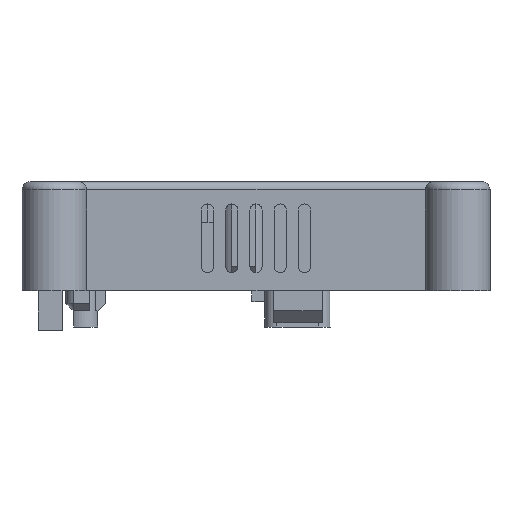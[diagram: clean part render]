
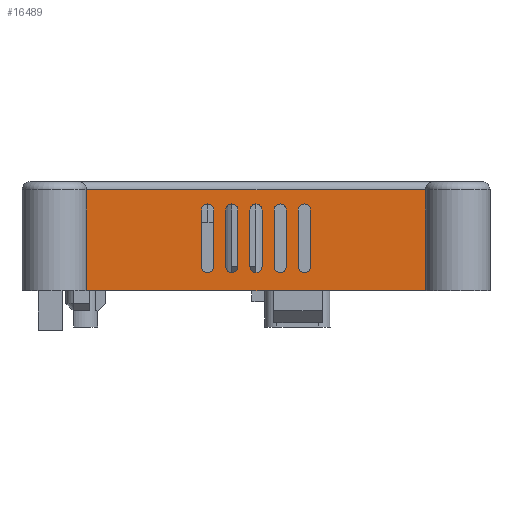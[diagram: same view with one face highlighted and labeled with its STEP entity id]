
A CAD part, left-side view. The second image highlights one B-rep face of the part: STEP entity #16489.
In plain terms, the highlighted planar face has unit normal (-1, 0, 0).
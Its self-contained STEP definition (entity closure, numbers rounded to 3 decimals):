
#788=FACE_BOUND('',#3121,.T.);
#789=FACE_BOUND('',#3122,.T.);
#790=FACE_BOUND('',#3123,.T.);
#791=FACE_BOUND('',#3124,.T.);
#792=FACE_BOUND('',#3125,.T.);
#1038=CIRCLE('',#16880,0.75);
#1040=CIRCLE('',#16884,0.75);
#1042=CIRCLE('',#16888,0.75);
#1044=CIRCLE('',#16892,0.75);
#1046=CIRCLE('',#16896,0.75);
#1048=CIRCLE('',#16900,0.75);
#1050=CIRCLE('',#16904,0.75);
#1052=CIRCLE('',#16908,0.75);
#1054=CIRCLE('',#16912,0.75);
#1056=CIRCLE('',#16916,0.75);
#2080=FACE_OUTER_BOUND('',#3120,.T.);
#3120=EDGE_LOOP('',(#15103,#15104,#15105,#15106));
#3121=EDGE_LOOP('',(#15107,#15108,#15109,#15110));
#3122=EDGE_LOOP('',(#15111,#15112,#15113,#15114));
#3123=EDGE_LOOP('',(#15115,#15116,#15117,#15118));
#3124=EDGE_LOOP('',(#15119,#15120,#15121,#15122));
#3125=EDGE_LOOP('',(#15123,#15124,#15125,#15126));
#3192=LINE('',#21169,#4870);
#3680=LINE('',#23090,#5358);
#3824=LINE('',#23545,#5502);
#3828=LINE('',#23556,#5506);
#3832=LINE('',#23569,#5510);
#3836=LINE('',#23580,#5514);
#3840=LINE('',#23593,#5518);
#3844=LINE('',#23604,#5522);
#3848=LINE('',#23617,#5526);
#3852=LINE('',#23628,#5530);
#3856=LINE('',#23641,#5534);
#3860=LINE('',#23652,#5538);
#4802=LINE('',#28313,#6480);
#4803=LINE('',#28315,#6481);
#4870=VECTOR('',#17551,10.);
#5358=VECTOR('',#18509,10.);
#5502=VECTOR('',#18925,10.);
#5506=VECTOR('',#18937,10.);
#5510=VECTOR('',#18949,10.);
#5514=VECTOR('',#18961,10.);
#5518=VECTOR('',#18973,10.);
#5522=VECTOR('',#18985,10.);
#5526=VECTOR('',#18997,10.);
#5530=VECTOR('',#19009,10.);
#5534=VECTOR('',#19021,10.);
#5538=VECTOR('',#19033,10.);
#6480=VECTOR('',#21013,10.);
#6481=VECTOR('',#21016,10.);
#6533=VERTEX_POINT('',#21156);
#6538=VERTEX_POINT('',#21167);
#7239=VERTEX_POINT('',#23087);
#7240=VERTEX_POINT('',#23089);
#7405=VERTEX_POINT('',#23535);
#7406=VERTEX_POINT('',#23536);
#7409=VERTEX_POINT('',#23544);
#7411=VERTEX_POINT('',#23550);
#7413=VERTEX_POINT('',#23559);
#7414=VERTEX_POINT('',#23560);
#7417=VERTEX_POINT('',#23568);
#7419=VERTEX_POINT('',#23574);
#7421=VERTEX_POINT('',#23583);
#7422=VERTEX_POINT('',#23584);
#7425=VERTEX_POINT('',#23592);
#7427=VERTEX_POINT('',#23598);
#7429=VERTEX_POINT('',#23607);
#7430=VERTEX_POINT('',#23608);
#7433=VERTEX_POINT('',#23616);
#7435=VERTEX_POINT('',#23622);
#7437=VERTEX_POINT('',#23631);
#7438=VERTEX_POINT('',#23632);
#7441=VERTEX_POINT('',#23640);
#7443=VERTEX_POINT('',#23646);
#8122=EDGE_CURVE('',#6538,#6533,#3192,.T.);
#8898=EDGE_CURVE('',#7240,#7239,#3680,.T.);
#9115=EDGE_CURVE('',#7405,#7406,#1038,.T.);
#9119=EDGE_CURVE('',#7409,#7405,#3824,.T.);
#9122=EDGE_CURVE('',#7411,#7409,#1040,.T.);
#9125=EDGE_CURVE('',#7406,#7411,#3828,.T.);
#9127=EDGE_CURVE('',#7413,#7414,#1042,.T.);
#9131=EDGE_CURVE('',#7417,#7413,#3832,.T.);
#9134=EDGE_CURVE('',#7419,#7417,#1044,.T.);
#9137=EDGE_CURVE('',#7414,#7419,#3836,.T.);
#9139=EDGE_CURVE('',#7421,#7422,#1046,.T.);
#9143=EDGE_CURVE('',#7425,#7421,#3840,.T.);
#9146=EDGE_CURVE('',#7427,#7425,#1048,.T.);
#9149=EDGE_CURVE('',#7422,#7427,#3844,.T.);
#9151=EDGE_CURVE('',#7429,#7430,#1050,.T.);
#9155=EDGE_CURVE('',#7433,#7429,#3848,.T.);
#9158=EDGE_CURVE('',#7435,#7433,#1052,.T.);
#9161=EDGE_CURVE('',#7430,#7435,#3852,.T.);
#9163=EDGE_CURVE('',#7437,#7438,#1054,.T.);
#9167=EDGE_CURVE('',#7441,#7437,#3856,.T.);
#9170=EDGE_CURVE('',#7443,#7441,#1056,.T.);
#9173=EDGE_CURVE('',#7438,#7443,#3860,.T.);
#10409=EDGE_CURVE('',#6538,#7240,#4802,.T.);
#10410=EDGE_CURVE('',#7239,#6533,#4803,.T.);
#15103=ORIENTED_EDGE('',*,*,#8122,.F.);
#15104=ORIENTED_EDGE('',*,*,#10409,.T.);
#15105=ORIENTED_EDGE('',*,*,#8898,.T.);
#15106=ORIENTED_EDGE('',*,*,#10410,.T.);
#15107=ORIENTED_EDGE('',*,*,#9115,.T.);
#15108=ORIENTED_EDGE('',*,*,#9125,.T.);
#15109=ORIENTED_EDGE('',*,*,#9122,.T.);
#15110=ORIENTED_EDGE('',*,*,#9119,.T.);
#15111=ORIENTED_EDGE('',*,*,#9127,.T.);
#15112=ORIENTED_EDGE('',*,*,#9137,.T.);
#15113=ORIENTED_EDGE('',*,*,#9134,.T.);
#15114=ORIENTED_EDGE('',*,*,#9131,.T.);
#15115=ORIENTED_EDGE('',*,*,#9139,.T.);
#15116=ORIENTED_EDGE('',*,*,#9149,.T.);
#15117=ORIENTED_EDGE('',*,*,#9146,.T.);
#15118=ORIENTED_EDGE('',*,*,#9143,.T.);
#15119=ORIENTED_EDGE('',*,*,#9151,.T.);
#15120=ORIENTED_EDGE('',*,*,#9161,.T.);
#15121=ORIENTED_EDGE('',*,*,#9158,.T.);
#15122=ORIENTED_EDGE('',*,*,#9155,.T.);
#15123=ORIENTED_EDGE('',*,*,#9163,.T.);
#15124=ORIENTED_EDGE('',*,*,#9173,.T.);
#15125=ORIENTED_EDGE('',*,*,#9170,.T.);
#15126=ORIENTED_EDGE('',*,*,#9167,.T.);
#15637=PLANE('',#17442);
#16489=ADVANCED_FACE('',(#2080,#788,#789,#790,#791,#792),#15637,.T.);
#16880=AXIS2_PLACEMENT_3D('',#23537,#18917,#18918);
#16884=AXIS2_PLACEMENT_3D('',#23551,#18930,#18931);
#16888=AXIS2_PLACEMENT_3D('',#23561,#18941,#18942);
#16892=AXIS2_PLACEMENT_3D('',#23575,#18954,#18955);
#16896=AXIS2_PLACEMENT_3D('',#23585,#18965,#18966);
#16900=AXIS2_PLACEMENT_3D('',#23599,#18978,#18979);
#16904=AXIS2_PLACEMENT_3D('',#23609,#18989,#18990);
#16908=AXIS2_PLACEMENT_3D('',#23623,#19002,#19003);
#16912=AXIS2_PLACEMENT_3D('',#23633,#19013,#19014);
#16916=AXIS2_PLACEMENT_3D('',#23647,#19026,#19027);
#17442=AXIS2_PLACEMENT_3D('',#28319,#21023,#21024);
#17551=DIRECTION('',(0.,-1.,0.));
#18509=DIRECTION('',(0.,-1.,0.));
#18917=DIRECTION('center_axis',(1.,0.,0.));
#18918=DIRECTION('ref_axis',(0.,1.,0.));
#18925=DIRECTION('',(0.,0.,-1.));
#18930=DIRECTION('center_axis',(1.,0.,0.));
#18931=DIRECTION('ref_axis',(0.,-1.,0.));
#18937=DIRECTION('',(0.,0.,1.));
#18941=DIRECTION('center_axis',(1.,0.,0.));
#18942=DIRECTION('ref_axis',(0.,1.,0.));
#18949=DIRECTION('',(0.,0.,1.));
#18954=DIRECTION('center_axis',(1.,0.,0.));
#18955=DIRECTION('ref_axis',(0.,-1.,0.));
#18961=DIRECTION('',(0.,0.,-1.));
#18965=DIRECTION('center_axis',(1.,0.,0.));
#18966=DIRECTION('ref_axis',(0.,1.,0.));
#18973=DIRECTION('',(0.,0.,-1.));
#18978=DIRECTION('center_axis',(1.,0.,0.));
#18979=DIRECTION('ref_axis',(0.,-1.,0.));
#18985=DIRECTION('',(0.,0.,1.));
#18989=DIRECTION('center_axis',(1.,0.,0.));
#18990=DIRECTION('ref_axis',(0.,1.,0.));
#18997=DIRECTION('',(0.,0.,-1.));
#19002=DIRECTION('center_axis',(1.,0.,0.));
#19003=DIRECTION('ref_axis',(0.,-1.,0.));
#19009=DIRECTION('',(0.,0.,1.));
#19013=DIRECTION('center_axis',(1.,0.,0.));
#19014=DIRECTION('ref_axis',(0.,1.,0.));
#19021=DIRECTION('',(0.,0.,-1.));
#19026=DIRECTION('center_axis',(1.,0.,0.));
#19027=DIRECTION('ref_axis',(0.,-1.,0.));
#19033=DIRECTION('',(0.,0.,1.));
#21013=DIRECTION('',(0.,0.,-1.));
#21016=DIRECTION('',(0.,0.,1.));
#21023=DIRECTION('center_axis',(-1.,0.,0.));
#21024=DIRECTION('ref_axis',(0.,-1.,0.));
#21156=CARTESIAN_POINT('',(-53.,-21.,12.5));
#21167=CARTESIAN_POINT('',(-53.,21.,12.5));
#21169=CARTESIAN_POINT('',(-53.,14.5,12.5));
#23087=CARTESIAN_POINT('',(-53.,-21.,0.));
#23089=CARTESIAN_POINT('',(-53.,21.,0.));
#23090=CARTESIAN_POINT('',(-53.,29.,0.));
#23535=CARTESIAN_POINT('',(-53.,-3.75,3.));
#23536=CARTESIAN_POINT('',(-53.,-2.25,3.));
#23537=CARTESIAN_POINT('Origin',(-53.,-3.,3.));
#23544=CARTESIAN_POINT('',(-53.,-3.75,10.));
#23545=CARTESIAN_POINT('',(-53.,-3.75,5.));
#23550=CARTESIAN_POINT('',(-53.,-2.25,10.));
#23551=CARTESIAN_POINT('Origin',(-53.,-3.,10.));
#23556=CARTESIAN_POINT('',(-53.,-2.25,1.5));
#23559=CARTESIAN_POINT('',(-53.,3.75,10.));
#23560=CARTESIAN_POINT('',(-53.,2.25,10.));
#23561=CARTESIAN_POINT('Origin',(-53.,3.,10.));
#23568=CARTESIAN_POINT('',(-53.,3.75,3.));
#23569=CARTESIAN_POINT('',(-53.,3.75,1.5));
#23574=CARTESIAN_POINT('',(-53.,2.25,3.));
#23575=CARTESIAN_POINT('Origin',(-53.,3.,3.));
#23580=CARTESIAN_POINT('',(-53.,2.25,5.));
#23583=CARTESIAN_POINT('',(-53.,-0.75,3.));
#23584=CARTESIAN_POINT('',(-53.,0.75,3.));
#23585=CARTESIAN_POINT('Origin',(-53.,0.,3.));
#23592=CARTESIAN_POINT('',(-53.,-0.75,10.));
#23593=CARTESIAN_POINT('',(-53.,-0.75,5.));
#23598=CARTESIAN_POINT('',(-53.,0.75,10.));
#23599=CARTESIAN_POINT('Origin',(-53.,0.,10.));
#23604=CARTESIAN_POINT('',(-53.,0.75,1.5));
#23607=CARTESIAN_POINT('',(-53.,5.25,3.));
#23608=CARTESIAN_POINT('',(-53.,6.75,3.));
#23609=CARTESIAN_POINT('Origin',(-53.,6.,3.));
#23616=CARTESIAN_POINT('',(-53.,5.25,10.));
#23617=CARTESIAN_POINT('',(-53.,5.25,5.));
#23622=CARTESIAN_POINT('',(-53.,6.75,10.));
#23623=CARTESIAN_POINT('Origin',(-53.,6.,10.));
#23628=CARTESIAN_POINT('',(-53.,6.75,1.5));
#23631=CARTESIAN_POINT('',(-53.,-6.75,3.));
#23632=CARTESIAN_POINT('',(-53.,-5.25,3.));
#23633=CARTESIAN_POINT('Origin',(-53.,-6.,3.));
#23640=CARTESIAN_POINT('',(-53.,-6.75,10.));
#23641=CARTESIAN_POINT('',(-53.,-6.75,5.));
#23646=CARTESIAN_POINT('',(-53.,-5.25,10.));
#23647=CARTESIAN_POINT('Origin',(-53.,-6.,10.));
#23652=CARTESIAN_POINT('',(-53.,-5.25,1.5));
#28313=CARTESIAN_POINT('',(-53.,21.,0.));
#28315=CARTESIAN_POINT('',(-53.,-21.,6.75));
#28319=CARTESIAN_POINT('Origin',(-53.,29.,0.));
